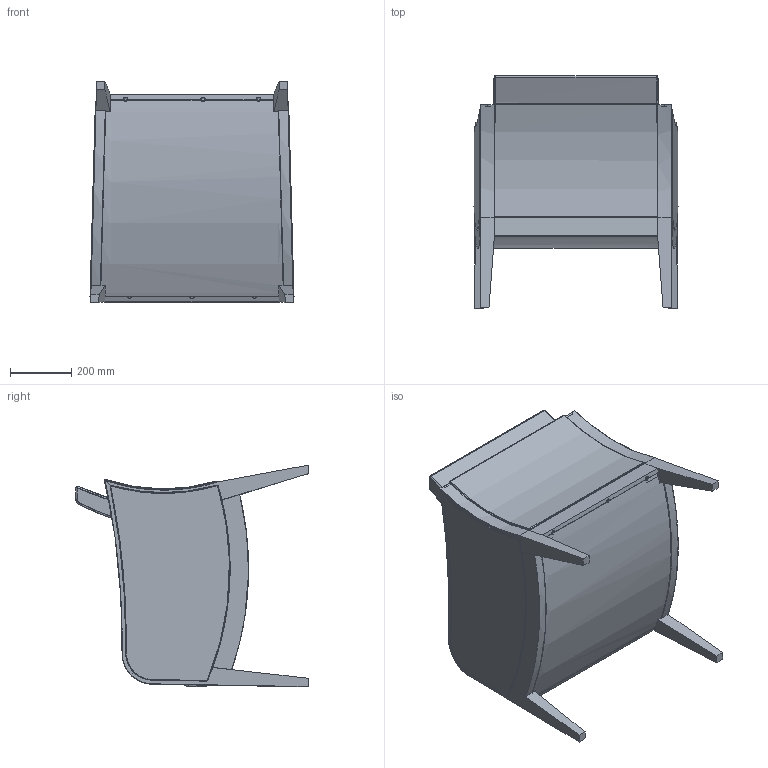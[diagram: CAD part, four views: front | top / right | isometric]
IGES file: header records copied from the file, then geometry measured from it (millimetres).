
Start section: SolidWorks IGES file using analytic representation for surfaces
Global section: file name: D:\DESENHOSSOLIDWORKS\Desenhos Tecnicos\Fabrica2\Cadeiras\Técnicos\ELLEN\3d Surfaces\Ellen M630.IGS; native system: SolidWorks 2012; preprocessor: SolidWorks 2012; author: emanuel; date: 121029.144311; units: millimetre
Bounding box: 663.51 x 755.06 x 720.75 mm (x, y, z)
Surface area: 3402057.4 mm2 (no closed solid volume)
Topology: 0 solids, 0 shells, 191 faces, 2870 edges, 2870 vertices
Faces by surface type: bspline 135, revolution 56
